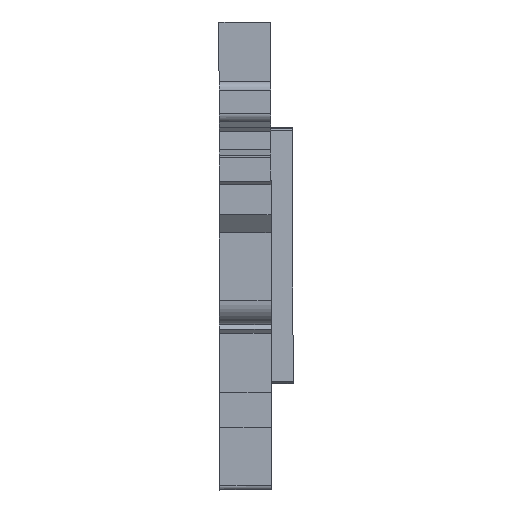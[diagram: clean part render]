
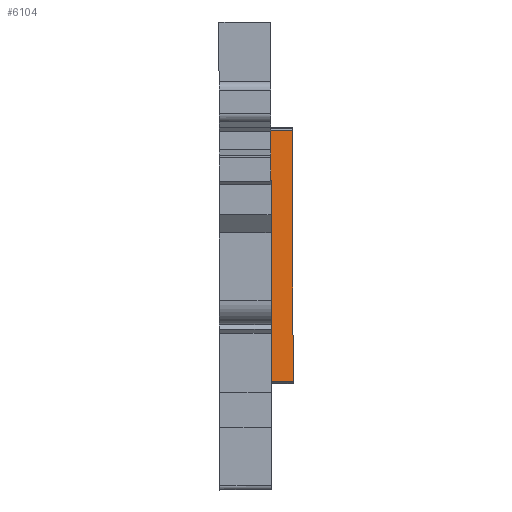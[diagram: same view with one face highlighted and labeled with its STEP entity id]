
A CAD part, front view. The second image highlights one B-rep face of the part: STEP entity #6104.
In plain terms, the highlighted planar face has unit normal (0.707, -0.707, 0.001).
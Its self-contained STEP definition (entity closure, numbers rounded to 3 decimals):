
#615=DIRECTION('',(0.002,0.,-1.));
#616=VECTOR('',#615,30.);
#617=CARTESIAN_POINT('',(23.938,0.851,53.477));
#618=LINE('',#617,#616);
#1133=DIRECTION('',(-0.707,-0.707,-0.001));
#1134=VECTOR('',#1133,3.677);
#1135=CARTESIAN_POINT('',(26.538,3.45,53.481));
#1136=LINE('',#1135,#1134);
#1441=DIRECTION('',(0.707,0.707,0.001));
#1442=VECTOR('',#1441,3.677);
#1443=CARTESIAN_POINT('',(23.992,0.851,23.477));
#1444=LINE('',#1443,#1442);
#1627=DIRECTION('',(-0.002,0.,1.));
#1628=VECTOR('',#1627,30.);
#1629=CARTESIAN_POINT('',(26.592,3.45,23.481));
#1630=LINE('',#1629,#1628);
#2655=CARTESIAN_POINT('',(23.938,0.851,53.477));
#2656=VERTEX_POINT('',#2655);
#2657=CARTESIAN_POINT('',(23.992,0.851,23.477));
#2658=VERTEX_POINT('',#2657);
#2721=CARTESIAN_POINT('',(26.592,3.45,23.481));
#2723=VERTEX_POINT('',#2721);
#2827=CARTESIAN_POINT('',(26.538,3.45,53.481));
#2828=VERTEX_POINT('',#2827);
#6093=CARTESIAN_POINT('',(25.265,2.151,38.479));
#6094=DIRECTION('',(-0.707,0.707,-0.001));
#6095=DIRECTION('',(0.707,0.707,0.001));
#6096=AXIS2_PLACEMENT_3D('',#6093,#6094,#6095);
#6097=PLANE('',#6096);
#6098=ORIENTED_EDGE('',*,*,#4687,.F.);
#6099=ORIENTED_EDGE('',*,*,#4993,.F.);
#6100=ORIENTED_EDGE('',*,*,#4882,.F.);
#6101=ORIENTED_EDGE('',*,*,#3649,.F.);
#6102=EDGE_LOOP('',(#6098,#6099,#6100,#6101));
#6103=FACE_OUTER_BOUND('',#6102,.F.);
#6104=ADVANCED_FACE('',(#6103),#6097,.F.);
#3649=EDGE_CURVE('',#2656,#2658,#618,.T.);
#4687=EDGE_CURVE('',#2828,#2656,#1136,.T.);
#4882=EDGE_CURVE('',#2658,#2723,#1444,.T.);
#4993=EDGE_CURVE('',#2723,#2828,#1630,.T.);
